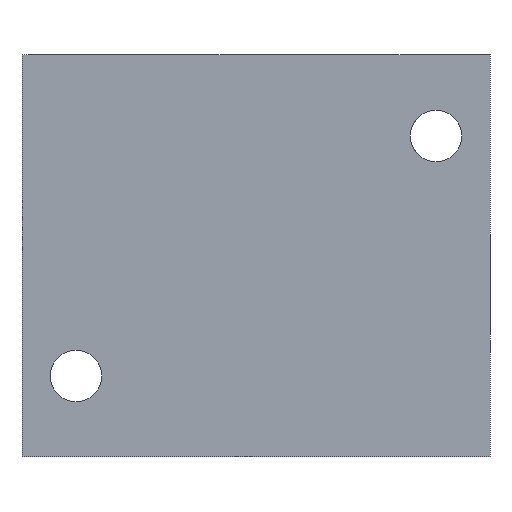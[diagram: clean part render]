
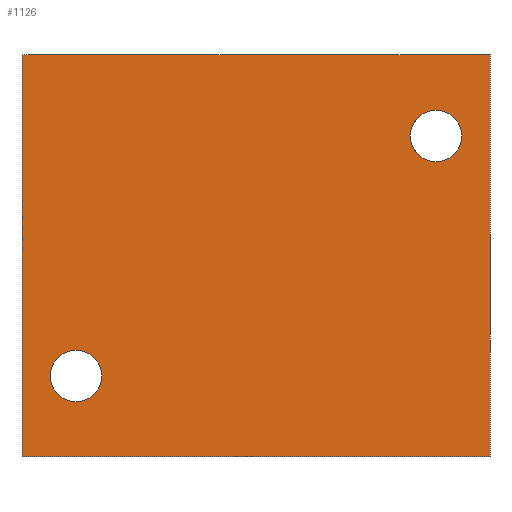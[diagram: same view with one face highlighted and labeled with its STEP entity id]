
A CAD part, front view. The second image highlights one B-rep face of the part: STEP entity #1126.
In plain terms, the highlighted planar face has unit normal (0, -1, 0).
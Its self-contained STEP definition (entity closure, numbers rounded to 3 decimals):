
#65 = EDGE_LOOP ( 'NONE', ( #1252, #936, #844, #1331 ) ) ;
#66 = CARTESIAN_POINT ( 'NONE',  ( -30., -25.5, -24.3 ) ) ;
#68 = CARTESIAN_POINT ( 'NONE',  ( 30., -25.5, 24.3 ) ) ;
#100 = VECTOR ( 'NONE', #1382, 1000. ) ;
#264 = PLANE ( 'NONE',  #552 ) ;
#266 = LINE ( 'NONE', #1090, #1603 ) ;
#282 = ORIENTED_EDGE ( 'NONE', *, *, #1810, .F. ) ;
#328 = EDGE_CURVE ( 'NONE', #1943, #1618, #266, .T. ) ;
#405 = LINE ( 'NONE', #1080, #100 ) ;
#437 = CARTESIAN_POINT ( 'NONE',  ( -30., -25.5, -20. ) ) ;
#451 = DIRECTION ( 'NONE',  ( 0., 0., -1. ) ) ;
#505 = CARTESIAN_POINT ( 'NONE',  ( 39., -25.5, -33.5 ) ) ;
#537 = CARTESIAN_POINT ( 'NONE',  ( -39., -25.5, 33.5 ) ) ;
#551 = DIRECTION ( 'NONE',  ( 0., 0., -1. ) ) ;
#552 = AXIS2_PLACEMENT_3D ( 'NONE', #717, #1354, #915 ) ;
#574 = CARTESIAN_POINT ( 'NONE',  ( -39., -25.5, -33.5 ) ) ;
#586 = DIRECTION ( 'NONE',  ( 0., -1., 0. ) ) ;
#590 = ORIENTED_EDGE ( 'NONE', *, *, #1857, .F. ) ;
#609 = EDGE_CURVE ( 'NONE', #1890, #666, #1627, .T. ) ;
#655 = EDGE_CURVE ( 'NONE', #1737, #1395, #1066, .T. ) ;
#666 = VERTEX_POINT ( 'NONE', #68 ) ;
#700 = EDGE_CURVE ( 'NONE', #666, #1890, #1900, .T. ) ;
#705 = DIRECTION ( 'NONE',  ( 0., -1., 0. ) ) ;
#717 = CARTESIAN_POINT ( 'NONE',  ( -39., -25.5, 33.5 ) ) ;
#749 = DIRECTION ( 'NONE',  ( 0., 0., -1. ) ) ;
#766 = AXIS2_PLACEMENT_3D ( 'NONE', #819, #1453, #749 ) ;
#788 = AXIS2_PLACEMENT_3D ( 'NONE', #437, #941, #451 ) ;
#819 = CARTESIAN_POINT ( 'NONE',  ( 30., -25.5, 20. ) ) ;
#844 = ORIENTED_EDGE ( 'NONE', *, *, #655, .F. ) ;
#883 = AXIS2_PLACEMENT_3D ( 'NONE', #1824, #586, #1885 ) ;
#915 = DIRECTION ( 'NONE',  ( 0., 0., 1. ) ) ;
#936 = ORIENTED_EDGE ( 'NONE', *, *, #1925, .F. ) ;
#941 = DIRECTION ( 'NONE',  ( 0., -1., 0. ) ) ;
#954 = VECTOR ( 'NONE', #551, 1000. ) ;
#1011 = CARTESIAN_POINT ( 'NONE',  ( -30., -25.5, -15.7 ) ) ;
#1066 = LINE ( 'NONE', #1834, #1702 ) ;
#1080 = CARTESIAN_POINT ( 'NONE',  ( 39., -25.5, 33.5 ) ) ;
#1090 = CARTESIAN_POINT ( 'NONE',  ( -39., -25.5, -33.5 ) ) ;
#1126 = ADVANCED_FACE ( 'NONE', ( #1223, #1859, #1519 ), #264, .F. ) ;
#1139 = CARTESIAN_POINT ( 'NONE',  ( 39., -25.5, 33.5 ) ) ;
#1199 = DIRECTION ( 'NONE',  ( 1., 0., 0. ) ) ;
#1223 = FACE_BOUND ( 'NONE', #1842, .T. ) ;
#1252 = ORIENTED_EDGE ( 'NONE', *, *, #328, .T. ) ;
#1268 = AXIS2_PLACEMENT_3D ( 'NONE', #1502, #705, #1634 ) ;
#1311 = CARTESIAN_POINT ( 'NONE',  ( -39., -25.5, 33.5 ) ) ;
#1331 = ORIENTED_EDGE ( 'NONE', *, *, #1736, .T. ) ;
#1354 = DIRECTION ( 'NONE',  ( 0., 1., 0. ) ) ;
#1371 = VERTEX_POINT ( 'NONE', #1011 ) ;
#1382 = DIRECTION ( 'NONE',  ( 0., 0., -1. ) ) ;
#1395 = VERTEX_POINT ( 'NONE', #1139 ) ;
#1421 = CARTESIAN_POINT ( 'NONE',  ( 30., -25.5, 15.7 ) ) ;
#1453 = DIRECTION ( 'NONE',  ( 0., -1., 0. ) ) ;
#1486 = VERTEX_POINT ( 'NONE', #66 ) ;
#1502 = CARTESIAN_POINT ( 'NONE',  ( 30., -25.5, 20. ) ) ;
#1519 = FACE_OUTER_BOUND ( 'NONE', #65, .T. ) ;
#1550 = DIRECTION ( 'NONE',  ( 1., 0., 0. ) ) ;
#1603 = VECTOR ( 'NONE', #1550, 1000. ) ;
#1618 = VERTEX_POINT ( 'NONE', #505 ) ;
#1627 = CIRCLE ( 'NONE', #1268, 4.3 ) ;
#1634 = DIRECTION ( 'NONE',  ( 0., 0., -1. ) ) ;
#1649 = LINE ( 'NONE', #537, #954 ) ;
#1702 = VECTOR ( 'NONE', #1199, 1000. ) ;
#1712 = ORIENTED_EDGE ( 'NONE', *, *, #700, .F. ) ;
#1736 = EDGE_CURVE ( 'NONE', #1737, #1943, #1649, .T. ) ;
#1737 = VERTEX_POINT ( 'NONE', #1311 ) ;
#1810 = EDGE_CURVE ( 'NONE', #1486, #1371, #1910, .T. ) ;
#1824 = CARTESIAN_POINT ( 'NONE',  ( -30., -25.5, -20. ) ) ;
#1834 = CARTESIAN_POINT ( 'NONE',  ( -39., -25.5, 33.5 ) ) ;
#1842 = EDGE_LOOP ( 'NONE', ( #1928, #1712 ) ) ;
#1843 = CIRCLE ( 'NONE', #788, 4.3 ) ;
#1857 = EDGE_CURVE ( 'NONE', #1371, #1486, #1843, .T. ) ;
#1859 = FACE_BOUND ( 'NONE', #1880, .T. ) ;
#1880 = EDGE_LOOP ( 'NONE', ( #282, #590 ) ) ;
#1885 = DIRECTION ( 'NONE',  ( 0., 0., -1. ) ) ;
#1890 = VERTEX_POINT ( 'NONE', #1421 ) ;
#1900 = CIRCLE ( 'NONE', #766, 4.3 ) ;
#1910 = CIRCLE ( 'NONE', #883, 4.3 ) ;
#1925 = EDGE_CURVE ( 'NONE', #1395, #1618, #405, .T. ) ;
#1928 = ORIENTED_EDGE ( 'NONE', *, *, #609, .F. ) ;
#1943 = VERTEX_POINT ( 'NONE', #574 ) ;
